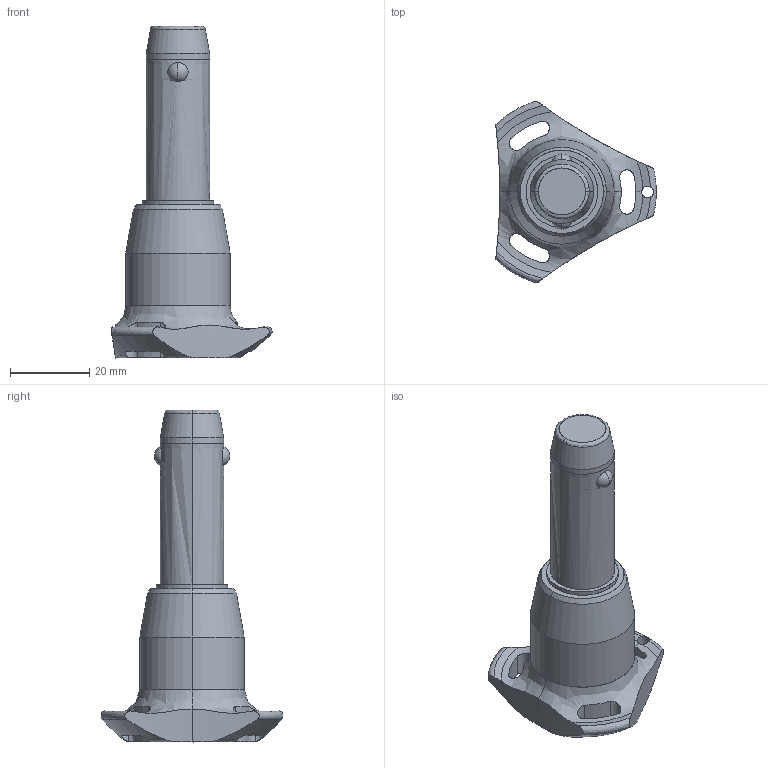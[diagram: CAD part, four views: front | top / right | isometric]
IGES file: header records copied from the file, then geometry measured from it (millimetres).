
Start section: SolidWorks IGES file using analytic representation for surfaces
Global section: file name: C:\Users\ianosborn\Desktop\QR1726_v2\QR1726_v2_20251115_IGES\QR1726.M16-030-T.igs; native system: SolidWorks 2019; preprocessor: SolidWorks 2019; author: IanOsborn; date: 251113.111815; units: millimetre
Bounding box: 40.5 x 45.88 x 83.7 mm (x, y, z)
Surface area: 8166.9 mm2 (no closed solid volume)
Topology: 0 solids, 0 shells, 68 faces, 1451 edges, 1447 vertices
Faces by surface type: revolution 52, bspline 16
